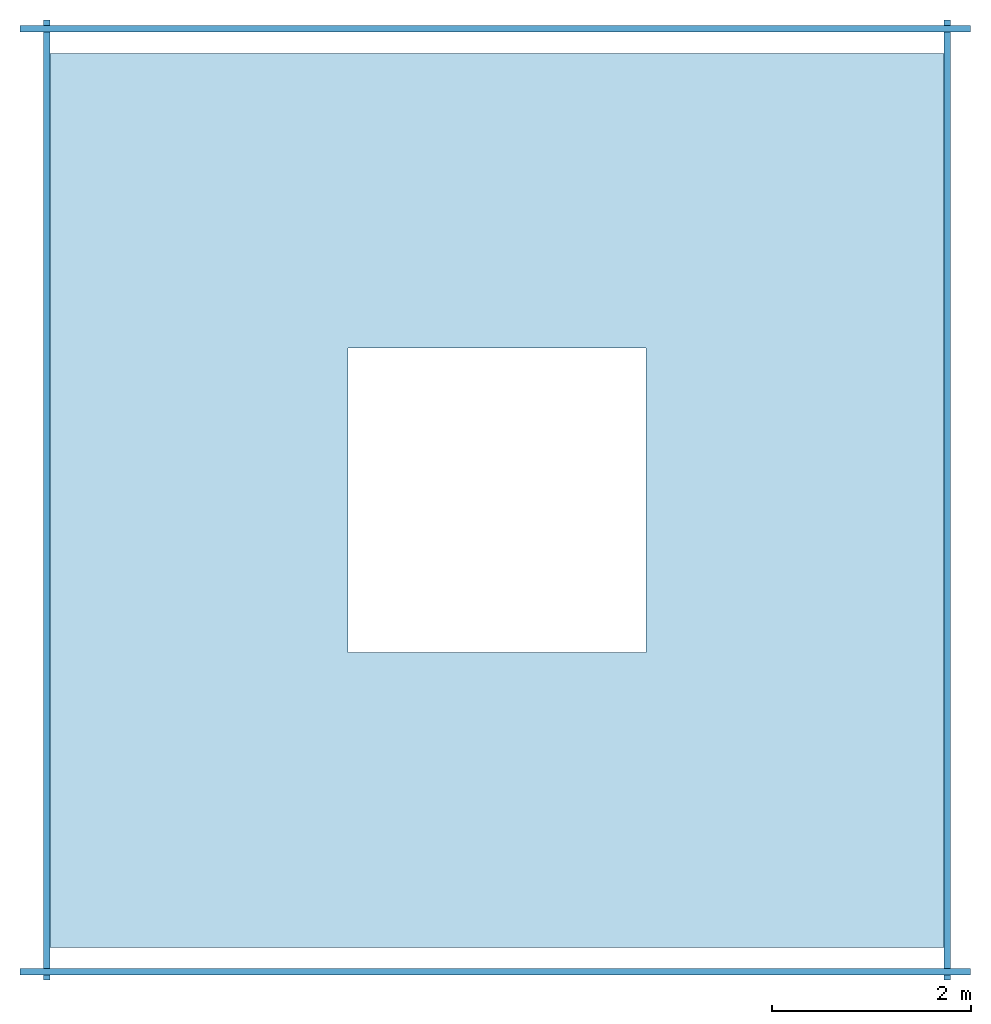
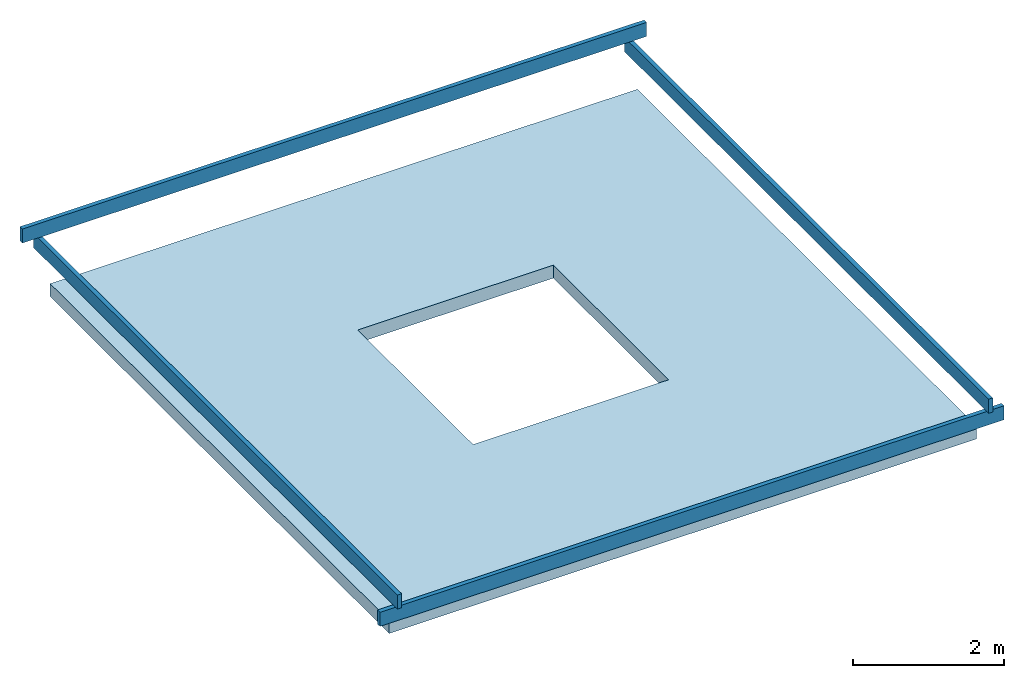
# One storey: 4 beams, 1 slab, 1 opening.
"""IFC2X3 building model written with IfcOpenShell, lengths in centimetres."""

import ifcopenshell
import ifcopenshell.guid

model = None  # the IFC model being written
_history = None  # IfcOwnerHistory: only IFC2X3 demands one
_inside = {}  # id of a spatial element -> (the spatial element, [elements in it])
_under = {}  # id of a project, library or spatial element -> (it, [spatial elements below it])
_declared = {}  # id of a project -> (the project, [libraries it declares])
_typed = {}  # id of a type object -> (the type object, [elements of that type])
_made_of = {}  # id of a material, layer set ... -> (it, [elements and type objects made of it])


def new_model(schema):
    """Start an empty IFC model of exactly this schema.

    Asked for "IFC4X3", IfcOpenShell would pick the latest addendum, in which some entities
    have other attributes; the version numbers below select the first issue.
    IFC2X3 requires an IfcOwnerHistory on every rooted entity: one is made here for all.
    """
    global model, _history
    if schema == "IFC4X3":
        model = ifcopenshell.file(schema_version=(4, 3, 0, 0))
    else:
        model = ifcopenshell.file(schema=schema)
    _inside.clear()
    _under.clear()
    _declared.clear()
    _typed.clear()
    _made_of.clear()
    _history = None
    if model.schema == "IFC2X3":
        org = make("IfcOrganization", Name="unknown")
        user = make(
            "IfcPersonAndOrganization",
            ThePerson=make("IfcPerson", FamilyName="unknown"),
            TheOrganization=org,
        )
        app = make(
            "IfcApplication",
            ApplicationDeveloper=org,
            Version="unknown",
            ApplicationFullName="unknown",
            ApplicationIdentifier="unknown",
        )
        _history = make(
            "IfcOwnerHistory",
            OwningUser=user,
            OwningApplication=app,
            ChangeAction="ADDED",
            CreationDate=0,
        )
    return model


def make(cls, **values):
    """One entity of the class cls with the attributes given. An attribute that is None is left unset."""
    return model.create_entity(
        cls, **{name: value for name, value in values.items() if value is not None}
    )


def entity(cls, *values):
    """Any entity or typed value of the class cls, its attributes in the order of the schema. None: left unset."""
    e = model.create_entity(cls)
    for i, value in enumerate(values):
        if value is not None:
            e[i] = value
    return e


def rooted(cls, **values):
    """An entity with a GlobalId (a new one), such as an element, a storey or a relation."""
    return make(cls, GlobalId=ifcopenshell.guid.new(), OwnerHistory=_history, **values)


def si_unit(unit_type, name, prefix=None):
    """IfcSIUnit, for example si_unit("LENGTHUNIT", "METRE", prefix="MILLI")."""
    return make("IfcSIUnit", UnitType=unit_type, Prefix=prefix, Name=name)


def converted_unit(unit_type, name, factor, base, dimensions=None, offset=None):
    """IfcConversionBasedUnit, such as the inch: factor (a typed value) times the base unit."""
    return make(
        "IfcConversionBasedUnit"
        if offset is None
        else "IfcConversionBasedUnitWithOffset",
        ConversionOffset=offset,
        Dimensions=None
        if dimensions is None
        else entity("IfcDimensionalExponents", *dimensions),
        UnitType=unit_type,
        Name=name,
        ConversionFactor=make(
            "IfcMeasureWithUnit", ValueComponent=factor, UnitComponent=base
        ),
    )


def derived_unit(unit_type, elements):
    """IfcDerivedUnit: a product of units, each with its exponent."""
    return make(
        "IfcDerivedUnit",
        Elements=[
            make("IfcDerivedUnitElement", Unit=unit, Exponent=power)
            for unit, power in elements
        ],
        UnitType=unit_type,
    )


def assignment(units):
    """IfcUnitAssignment: the units of a project."""
    return None if units is None else make("IfcUnitAssignment", Units=units)


def point(xyz):
    """IfcCartesianPoint."""
    return None if xyz is None else make("IfcCartesianPoint", Coordinates=xyz)


def direction(xyz):
    """IfcDirection."""
    return None if xyz is None else make("IfcDirection", DirectionRatios=xyz)


def frame(location, z_axis=None, x_axis=None):
    """IfcAxis2Placement3D, a coordinate frame: its origin and axes. An axis left out is left unset."""
    return make(
        "IfcAxis2Placement3D",
        Location=point(location),
        Axis=direction(z_axis),
        RefDirection=direction(x_axis),
    )


def frame_2d(location, x_axis=None):
    """IfcAxis2Placement2D, a coordinate frame in the plane: its origin and x axis."""
    return make(
        "IfcAxis2Placement2D", Location=point(location), RefDirection=direction(x_axis)
    )


def origin():
    """The frame at (0, 0, 0) with its axes left unset."""
    return frame((0.0, 0.0, 0.0))


def origin_2d_with_axis():
    """The frame at (0, 0) in the plane with the x axis (1, 0) written out."""
    return frame_2d((0.0, 0.0), x_axis=(1.0, 0.0))


def place(relative_to, where):
    """IfcLocalPlacement: puts the frame where relative to a parent placement (None: the world)."""
    return make(
        "IfcLocalPlacement", PlacementRelTo=relative_to, RelativePlacement=where
    )


def context(
    kind, dimensions, precision=None, world=None, true_north=None, identifier=None
):
    """IfcGeometricRepresentationContext, for example the 3D "Model" context."""
    return make(
        "IfcGeometricRepresentationContext",
        ContextIdentifier=identifier,
        ContextType=kind,
        CoordinateSpaceDimension=dimensions,
        Precision=precision,
        WorldCoordinateSystem=world,
        TrueNorth=true_north,
    )


def subcontext(parent, identifier, kind, view, scale=None):
    """IfcGeometricRepresentationSubContext, for example "Body" below "Model"."""
    return make(
        "IfcGeometricRepresentationSubContext",
        ContextIdentifier=identifier,
        ContextType=kind,
        ParentContext=parent,
        TargetScale=scale,
        TargetView=view,
    )


def project(units=None, contexts=None):
    """IfcProject with its units and contexts."""
    return rooted(
        "IfcProject",
        Name="project",
        RepresentationContexts=contexts,
        UnitsInContext=assignment(units),
    )


def spatial(cls, under=None, at=None, **own):
    """A site, building, storey or space (cls), placed at a placement, below another one or the project."""
    s = rooted(cls, ObjectPlacement=at, **own)
    if under is not None:
        _under.setdefault(under.id(), (under, []))[1].append(s)
    return s


def profile(cls, at=None, kind="AREA", **sizes):
    """A parametric profile (cls). Its sizes go by their IFC names, for example OverallWidth=200.0."""
    return make(cls, ProfileType=kind, Position=at, **sizes)


def rectangle(**sizes):
    """IfcRectangleProfileDef."""
    return profile("IfcRectangleProfileDef", **sizes)


def extrude(swept, where, along, depth):
    """IfcExtrudedAreaSolid: the profile swept, set in the frame where, extruded along a direction by depth."""
    return make(
        "IfcExtrudedAreaSolid",
        SweptArea=swept,
        Position=where,
        ExtrudedDirection=direction(along),
        Depth=depth,
    )


def boolean(op, a, b):
    """IfcBooleanResult of two solids."""
    return make("IfcBooleanResult", Operator=op, FirstOperand=a, SecondOperand=b)


def shape(context_of_items, identifier, shape_type, items):
    """IfcShapeRepresentation: the items that make up one representation, for example the "Body"."""
    return make(
        "IfcShapeRepresentation",
        ContextOfItems=context_of_items,
        RepresentationIdentifier=identifier,
        RepresentationType=shape_type,
        Items=items,
    )


def material(Name=None, Category=None):
    """IfcMaterial."""
    return make("IfcMaterial", Name=Name, Category=Category)


def layer(
    of_material, thickness, ventilated=None, Name=None, Category=None, Priority=None
):
    """IfcMaterialLayer: one layer of a wall or slab, of a material (None: an air gap)."""
    return make(
        "IfcMaterialLayer",
        Material=of_material,
        LayerThickness=thickness,
        IsVentilated=ventilated,
        Name=Name,
        Category=Category,
        Priority=Priority,
    )


def layer_set(layers, Name=None):
    """IfcMaterialLayerSet."""
    return make("IfcMaterialLayerSet", MaterialLayers=layers, LayerSetName=Name)


def layer_usage(for_layer_set, set_direction, sense, offset, extent=None):
    """IfcMaterialLayerSetUsage: how a layer set lies in its element."""
    return make(
        "IfcMaterialLayerSetUsage",
        ForLayerSet=for_layer_set,
        LayerSetDirection=set_direction,
        DirectionSense=sense,
        OffsetFromReferenceLine=offset,
        ReferenceExtent=extent,
    )


def made_of(thing, what):
    """Note that an element or type object is made of a material, layer set ...; save() writes the relation."""
    if what is not None:
        _made_of.setdefault(what.id(), (what, []))[1].append(thing)
    return thing


def type_object(cls, material=None, **own):
    """A type object (cls), such as IfcWallType, which elements share."""
    return made_of(rooted(cls, **own), material)


def element(
    cls,
    number,
    at=None,
    inside=None,
    cuts=None,
    type_object=None,
    material=None,
    context=None,
    identifier="Body",
    shape_type=None,
    held_by="IfcProductDefinitionShape",
    body=None,
    shapes=None,
    **own,
):
    """One element of the class cls, such as IfcWall. Its Tag is "e" and its number.

    at: its placement. inside: the storey or other place that contains it. cuts: it is an
    opening in that element (IfcRelVoidsElement). A single representation is given by context,
    identifier, shape_type and body (its items); several are given by shapes. held_by: the class
    of the entity that holds the representations. save() writes the other relations.
    """
    e = rooted(cls, Tag="e%d" % number, ObjectPlacement=at, **own)
    if body is not None:
        shapes = [shape(context, identifier, shape_type, body)]
    if shapes is not None:
        e.Representation = make(held_by, Representations=shapes)
    if inside is not None:
        _inside.setdefault(inside.id(), (inside, []))[1].append(e)
    if cuts is not None:
        rooted(
            "IfcRelVoidsElement", RelatingBuildingElement=cuts, RelatedOpeningElement=e
        )
    if type_object is not None:
        _typed.setdefault(type_object.id(), (type_object, []))[1].append(e)
    return made_of(e, material)


def aggregate(whole, parts):
    """IfcRelAggregates: a whole, such as a stair, and the parts it consists of."""
    return rooted("IfcRelAggregates", RelatingObject=whole, RelatedObjects=parts)


def save(model, path):
    """Write the relations noted so far, then the file.

    IfcRelAggregates (storeys below a building ...), IfcRelContainedInSpatialStructure (elements
    in a storey), IfcRelDefinesByType, IfcRelAssociatesMaterial and IfcRelDeclares: one each for
    every whole, place, type object, material and project.
    """
    for whole, parts in _under.values():
        aggregate(whole, parts)
    for where, things in _inside.values():
        rooted(
            "IfcRelContainedInSpatialStructure",
            RelatedElements=things,
            RelatingStructure=where,
        )
    for kind, things in _typed.values():
        rooted("IfcRelDefinesByType", RelatedObjects=things, RelatingType=kind)
    for what, things in _made_of.values():
        rooted("IfcRelAssociatesMaterial", RelatedObjects=things, RelatingMaterial=what)
    for by, libraries in _declared.values():
        rooted("IfcRelDeclares", RelatingContext=by, RelatedDefinitions=libraries)
    model.write(path)


model = new_model("IFC2X3")

# Units and contexts
model_context = context("Model", 3, precision=0.001, world=origin(), true_north=direction((6.123233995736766e-17, 1.0)))
body_context = subcontext(model_context, "Body", "Model", "MODEL_VIEW")
ifc_project = project(units=[si_unit("LENGTHUNIT", "METRE", prefix="CENTI"), si_unit("AREAUNIT", "SQUARE_METRE"), si_unit("VOLUMEUNIT", "CUBIC_METRE"), converted_unit("PLANEANGLEUNIT", "DEGREE", entity("IfcPlaneAngleMeasure", 0.017453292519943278), si_unit("PLANEANGLEUNIT", "RADIAN"), dimensions=[0, 0, 0, 0, 0, 0, 0]), si_unit("POWERUNIT", "WATT"), derived_unit("USERDEFINED", [(si_unit("MASSUNIT", "GRAM", prefix="KILO"), 1), (si_unit("TIMEUNIT", "SECOND"), -3)]), si_unit("FORCEUNIT", "NEWTON", prefix="KILO"), derived_unit("THERMALTRANSMITTANCEUNIT", [(si_unit("MASSUNIT", "GRAM", prefix="KILO"), 1), (si_unit("TIMEUNIT", "SECOND"), -3), (si_unit("THERMODYNAMICTEMPERATUREUNIT", "KELVIN"), -1)]), derived_unit("USERDEFINED", [(si_unit("MASSUNIT", "GRAM", prefix="KILO"), 1), (si_unit("THERMODYNAMICTEMPERATUREUNIT", "KELVIN"), -1), (si_unit("TIMEUNIT", "SECOND"), -2)]), derived_unit("THERMALRESISTANCEUNIT", [(si_unit("MASSUNIT", "GRAM", prefix="KILO"), -1), (si_unit("TIMEUNIT", "SECOND"), 3), (si_unit("THERMODYNAMICTEMPERATUREUNIT", "KELVIN"), 1)]), derived_unit("USERDEFINED", [(si_unit("MASSUNIT", "GRAM", prefix="KILO"), -1), (si_unit("TIMEUNIT", "SECOND"), 3), (si_unit("LENGTHUNIT", "METRE"), -2), (si_unit("LUMINOUSFLUXUNIT", "LUMEN"), 1)]), si_unit("LUMINOUSFLUXUNIT", "LUMEN")], contexts=[model_context])

# Site, building, storey
site_placement = place(None, origin())
site = spatial("IfcSite", under=ifc_project, at=site_placement, Name="Default", CompositionType="ELEMENT")
building_placement = place(site_placement, origin())
building = spatial("IfcBuilding", under=site, at=building_placement, Name="Workshop Hbaitáculo - Refugio Tierra del Fuego", CompositionType="ELEMENT")
storey_placement = place(building_placement, frame((0.0, 0.0, 421.0)))
storey = spatial("IfcBuildingStorey", under=building, at=storey_placement, Name="NOG_SIP Cara Superior", CompositionType="ELEMENT", Elevation=420.99999999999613)

# Beams
ifc_material_1 = material(Name="Madera Oscura")
beam_type = type_object("IfcBeamType", Name="Arauco Hilam Viga:Hilam Viga 65x228 mm", PredefinedType="BEAM")
beam_1_placement = place(storey_placement, frame((-96.13781449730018, 333.74999999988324, 107.19999999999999)))
element("IfcBeam", 1, at=beam_1_placement, inside=storey, type_object=beam_type, material=ifc_material_1, Name="Arauco Hilam Viga:Hilam Viga 65x228 mm", ObjectType="Arauco Hilam Viga:Hilam Viga 65x228 mm", context=body_context, shape_type="SweptSolid", body=[
    extrude(rectangle(XDim=22.800000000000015, YDim=6.499999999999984, at=frame_2d((0.0, -2.708944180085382e-14), x_axis=(1.0, 0.0))), frame((65.77628155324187, 0.0, -11.400000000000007), z_axis=(1.0, 0.0, 0.0), x_axis=(0.0, 0.0, -1.0)), (0.0, 0.0, 1.0), 956.8615329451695),
])
beam_2_placement = place(storey_placement, frame((-3.2499999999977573, 318.10615008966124, 84.39999999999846), z_axis=(0.0, 0.0, 1.0), x_axis=(0.0, -1.0, 0.0)))
element("IfcBeam", 2, at=beam_2_placement, inside=storey, type_object=beam_type, material=ifc_material_1, Name="Arauco Hilam Viga:Hilam Viga 65x228 mm", ObjectType="Arauco Hilam Viga:Hilam Viga 65x228 mm", context=body_context, shape_type="SweptSolid", body=[
    extrude(rectangle(XDim=22.800000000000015, YDim=6.499999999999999, at=frame_2d((0.0, 4.440892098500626e-16), x_axis=(1.0, 0.0))), frame((-24.56143479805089, 0.0, -11.400000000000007), z_axis=(1.0, 0.0, 0.0), x_axis=(0.0, 0.0, -1.0)), (0.0, 0.0, 1.0), 966.66758488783),
])
beam_3_placement = place(storey_placement, frame((-96.13781449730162, -615.7500000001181, 61.599999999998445)))
element("IfcBeam", 3, at=beam_3_placement, inside=storey, type_object=beam_type, material=ifc_material_1, Name="Arauco Hilam Viga:Hilam Viga 65x228 mm", ObjectType="Arauco Hilam Viga:Hilam Viga 65x228 mm", context=body_context, shape_type="SweptSolid", body=[
    extrude(rectangle(XDim=22.800000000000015, YDim=6.500000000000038, at=origin_2d_with_axis()), frame((65.77628155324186, 0.0, -11.400000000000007), z_axis=(1.0, 0.0, 0.0), x_axis=(0.0, 0.0, -1.0)), (0.0, 0.0, 1.0), 956.8615329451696),
])
beam_4_placement = place(storey_placement, frame((903.2500000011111, 318.10615008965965, 84.39999999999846), z_axis=(0.0, 0.0, 1.0), x_axis=(0.0, -1.0, 0.0)))
element("IfcBeam", 4, at=beam_4_placement, inside=storey, type_object=beam_type, material=ifc_material_1, Name="Arauco Hilam Viga:Hilam Viga 65x228 mm", ObjectType="Arauco Hilam Viga:Hilam Viga 65x228 mm", context=body_context, shape_type="SweptSolid", body=[
    extrude(rectangle(XDim=22.80000000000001, YDim=6.500000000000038, at=frame_2d((0.0, -1.0835776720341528e-13), x_axis=(1.0, 0.0))), frame((-24.56143479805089, 0.0, -11.400000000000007), z_axis=(1.0, 0.0, 0.0), x_axis=(0.0, 0.0, -1.0)), (0.0, 0.0, 1.0), 966.66758488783),
])

# Slab, opening
ifc_material_2 = material(Name="SIP OSB")
ifc_layer_1 = layer(ifc_material_2, 1.1)
ifc_material_3 = material(Name="SIP Aislamiento - Poliestireno expandido")
ifc_layer_2 = layer(ifc_material_3, 18.8)
ifc_layer_3 = layer(ifc_material_2, 1.1)
ifc_layer_set = layer_set([ifc_layer_1, ifc_layer_2, ifc_layer_3], Name="Suelo:SIP e=210mm")
ifc_layer_usage = layer_usage(ifc_layer_set, "AXIS3", "POSITIVE", 0.0)
slab_type = type_object("IfcSlabType", Name="Suelo:SIP e=210mm", PredefinedType="FLOOR", material=ifc_layer_set)
slab_placement = place(storey_placement, origin())
slab = element("IfcSlab", 5, at=slab_placement, inside=storey, type_object=slab_type, material=ifc_layer_usage, Name="Suelo:SIP e=210mm", ObjectType="Suelo:SIP e=210mm", PredefinedType="FLOOR", context=body_context, shape_type="CSG", body=[
    boolean("DIFFERENCE", extrude(rectangle(XDim=900.2999999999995, YDim=900.3000000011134, at=origin_2d_with_axis()), frame((450.0, -141.0, 21.0), z_axis=(0.0, 0.0, -1.0), x_axis=(0.0, 1.0, 0.0)), (0.0, 0.0, 1.0), 20.99999999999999), extrude(rectangle(XDim=306.349999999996, YDim=300.0000000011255, at=frame_2d((0.0, -2.842170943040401e-14), x_axis=(1.0, 0.0))), frame((450.0, -140.92500000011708, 0.0), z_axis=(0.0, 0.0, 1.0), x_axis=(0.0, 1.0, 0.0)), (0.0, 0.0, 1.0), 20.99999999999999)),
])
opening_placement = place(slab_placement, origin())
element("IfcOpeningElement", 6, at=opening_placement, cuts=slab, Name="Suelo:SIP e=210mm", ObjectType="Opening", context=body_context, shape_type="SweptSolid", body=[
    extrude(rectangle(XDim=306.349999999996, YDim=300.0000000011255, at=frame_2d((450.0000000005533, -140.92500000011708), x_axis=(0.0, -1.0))), frame((0.0, 0.0, 21.0)), (0.0, 0.0, -1.0), 20.99999999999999),
])

save(model, "model.ifc")
